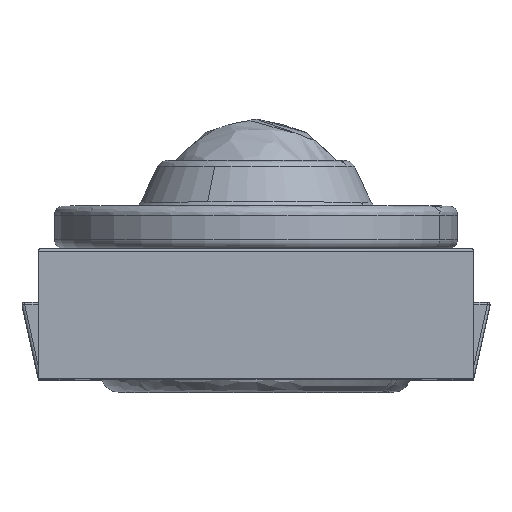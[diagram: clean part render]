
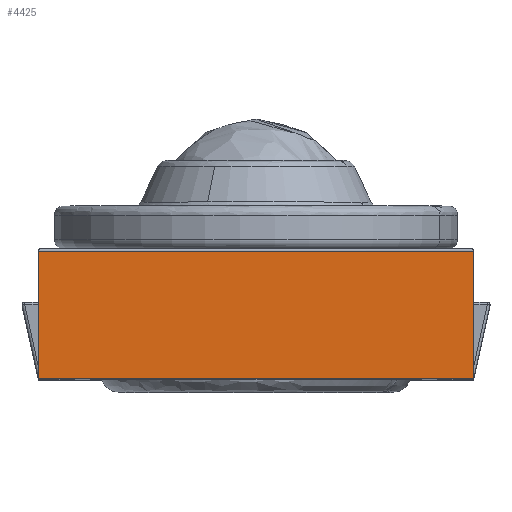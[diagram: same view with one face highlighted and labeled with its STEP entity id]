
A CAD part, top view. The second image highlights one B-rep face of the part: STEP entity #4425.
In plain terms, the highlighted planar face has unit normal (0, 0, 1).
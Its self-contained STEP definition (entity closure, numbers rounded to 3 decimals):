
#376 = CARTESIAN_POINT ( 'NONE',  ( -16.7, -10., 25. ) ) ;
#437 = DIRECTION ( 'NONE',  ( 0., 1., 0. ) ) ;
#944 = DIRECTION ( 'NONE',  ( 1., 0., 0. ) ) ;
#1748 = ORIENTED_EDGE ( 'NONE', *, *, #3394, .T. ) ;
#2363 = VECTOR ( 'NONE', #5710, 1000. ) ;
#2538 = DIRECTION ( 'NONE',  ( 0., 1., 0. ) ) ;
#3394 = EDGE_CURVE ( 'NONE', #4885, #6858, #8243, .T. ) ;
#3592 = FACE_OUTER_BOUND ( 'NONE', #8969, .T. ) ;
#4046 = ORIENTED_EDGE ( 'NONE', *, *, #6147, .T. ) ;
#4259 = DIRECTION ( 'NONE',  ( 1., 0., 0. ) ) ;
#4425 = ADVANCED_FACE ( 'NONE', ( #3592 ), #10903, .T. ) ;
#4464 = AXIS2_PLACEMENT_3D ( 'NONE', #9787, #7610, #944 ) ;
#4885 = VERTEX_POINT ( 'NONE', #8157 ) ;
#5655 = CARTESIAN_POINT ( 'NONE',  ( 16.7, -10., 25. ) ) ;
#5710 = DIRECTION ( 'NONE',  ( -1., 0., 0. ) ) ;
#6147 = EDGE_CURVE ( 'NONE', #13837, #4885, #10710, .T. ) ;
#6858 = VERTEX_POINT ( 'NONE', #9716 ) ;
#7610 = DIRECTION ( 'NONE',  ( 0., 0., 1. ) ) ;
#7866 = VECTOR ( 'NONE', #437, 1000. ) ;
#8119 = VECTOR ( 'NONE', #2538, 1000. ) ;
#8157 = CARTESIAN_POINT ( 'NONE',  ( 16.7, -0.2, 25. ) ) ;
#8243 = LINE ( 'NONE', #10115, #2363 ) ;
#8969 = EDGE_LOOP ( 'NONE', ( #4046, #1748, #13519, #10930 ) ) ;
#9164 = CARTESIAN_POINT ( 'NONE',  ( 16.7, -10., 25. ) ) ;
#9333 = CARTESIAN_POINT ( 'NONE',  ( -16.7, -10., 25. ) ) ;
#9465 = EDGE_CURVE ( 'NONE', #14118, #6858, #14041, .T. ) ;
#9716 = CARTESIAN_POINT ( 'NONE',  ( -16.7, -0.2, 25. ) ) ;
#9787 = CARTESIAN_POINT ( 'NONE',  ( 16.7, -10., 25. ) ) ;
#9925 = VECTOR ( 'NONE', #4259, 1000. ) ;
#10115 = CARTESIAN_POINT ( 'NONE',  ( 16.7, -0.2, 25. ) ) ;
#10710 = LINE ( 'NONE', #9164, #8119 ) ;
#10903 = PLANE ( 'NONE',  #4464 ) ;
#10919 = CARTESIAN_POINT ( 'NONE',  ( 16.7, -10., 25. ) ) ;
#10930 = ORIENTED_EDGE ( 'NONE', *, *, #11037, .T. ) ;
#11037 = EDGE_CURVE ( 'NONE', #14118, #13837, #13188, .T. ) ;
#13188 = LINE ( 'NONE', #10919, #9925 ) ;
#13519 = ORIENTED_EDGE ( 'NONE', *, *, #9465, .F. ) ;
#13837 = VERTEX_POINT ( 'NONE', #5655 ) ;
#14041 = LINE ( 'NONE', #9333, #7866 ) ;
#14118 = VERTEX_POINT ( 'NONE', #376 ) ;
